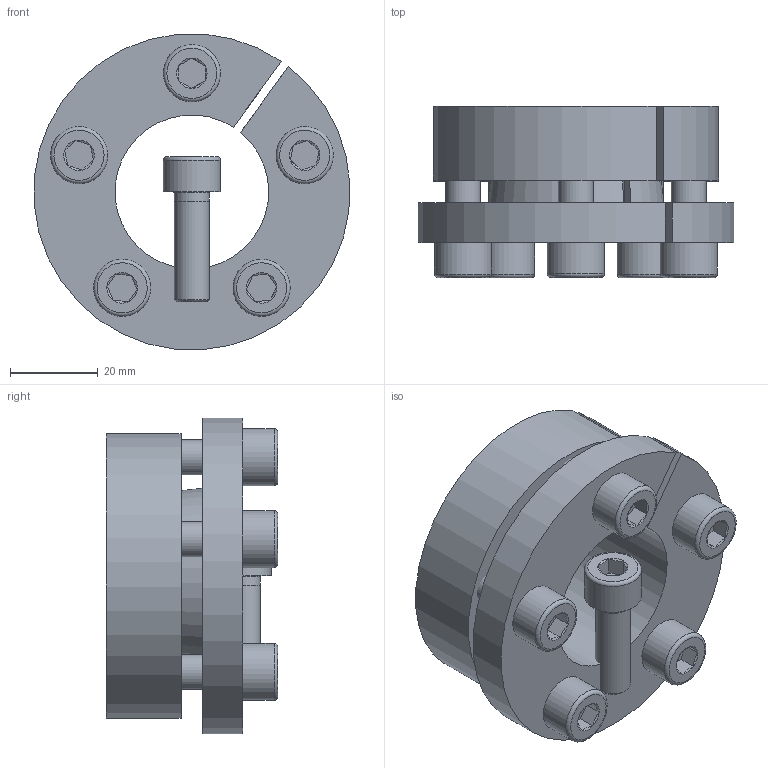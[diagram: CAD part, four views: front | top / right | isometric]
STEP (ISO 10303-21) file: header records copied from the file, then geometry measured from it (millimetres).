
FILE_DESCRIPTION( ( 'Unknown' ), '1' );
FILE_NAME( 'C:/Dokumente und Einstellungen/Sven/Desktop/15/KBS 15 - 35 x 65.stp', 'Unknown', ( 'Unknown' ), ( 'Unknown' ), 'XStep 1.0', 'Unknown', ' ' );
FILE_SCHEMA( ( 'automotive_design' ) );
Length unit declared in the file: millimetre
Products named in the file (3): Assem1; ISO EN DIN 4762 M8x25_18; KBS 15 - 35 x 65_0
Bounding box: 71.85 x 39 x 71.81 mm (x, y, z)
Volume: 138313 mm3; surface area: 53150.3 mm2
Topology: 8 solids, 8 shells, 194 faces, 404 edges, 250 vertices
Faces by surface type: plane 86, cylinder 50, cone 46, torus 12
Full cylindrical faces by diameter (mm): 6.647 x10, 7 x6, 8 x12, 9 x10, 13 x6
Entity records: 1524 total; most frequent: CARTESIAN_POINT 256, DIRECTION 230, ORIENTED_EDGE 170, AXIS2_PLACEMENT_3D 101, EDGE_LOOP 88, EDGE_CURVE 85, FACE_OUTER_BOUND 63, VERTEX_POINT 63
